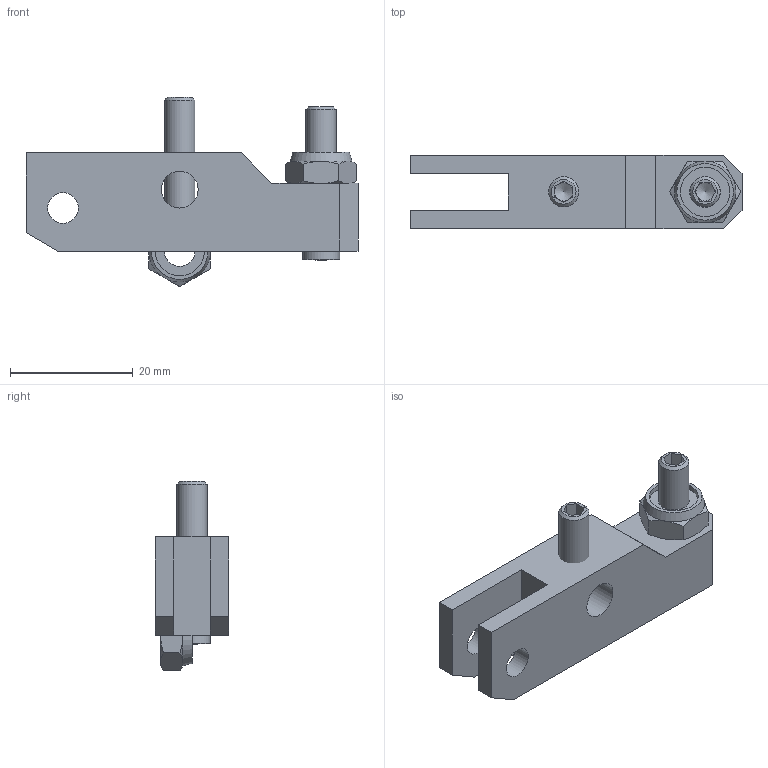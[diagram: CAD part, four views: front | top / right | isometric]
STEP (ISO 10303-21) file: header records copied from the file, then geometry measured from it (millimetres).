
FILE_DESCRIPTION( ( '' ), '1' );
FILE_NAME( 'W:/Catalogue/JL5H/JL5H28_ClampArm/JL5H28_ClampArm.stp', '2008-05-26T01:21:23', ( '機械事業部産業機器グループ' ), ( '豊和工業株式会社' ), 'XStep 1.0', ' ', ' ' );
FILE_SCHEMA( ( 'CONFIG_CONTROL_DESIGN' ) );
Length unit declared in the file: millimetre
Products named in the file (4): Assem1; 1; 2; 3
Bounding box: 54 x 12 x 30.77 mm (x, y, z)
Volume: 15450 mm3; surface area: 9271.5 mm2
Topology: 6 solids, 6 shells, 132 faces, 316 edges, 200 vertices
Faces by surface type: plane 80, cone 30, cylinder 20, sphere 2
Full cylindrical faces by diameter (mm): 3 x2, 4.917 x2, 5 x6, 5.25 x2, 6 x4, 6.5 x2, 8 x2
Entity records: 2022 total; most frequent: CARTESIAN_POINT 417, DIRECTION 290, ORIENTED_EDGE 270, EDGE_CURVE 135, AXIS2_PLACEMENT_3D 109, EDGE_LOOP 92, VERTEX_POINT 92, FACE_OUTER_BOUND 76
